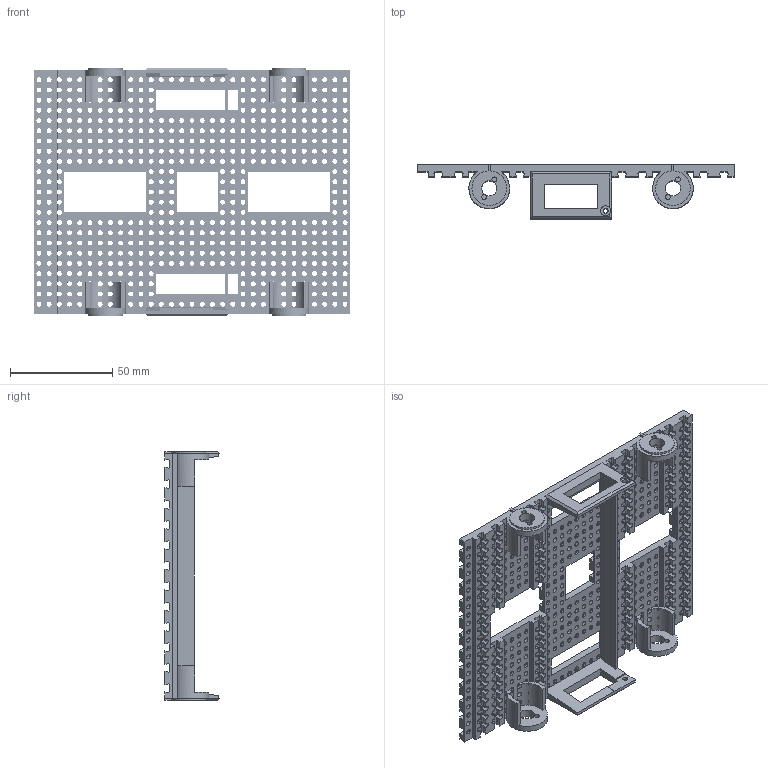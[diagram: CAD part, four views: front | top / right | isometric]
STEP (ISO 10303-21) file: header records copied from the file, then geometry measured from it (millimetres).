
FILE_DESCRIPTION(/* description */ (''),/* implementation_level */ '2;1');
FILE_NAME(/* name */ 'C:/Users/priba/Downloads/ChassisMaze.step',/* time_stamp */ '2022-04-03T23:52:10+02:00',/* author */ (''),/* organization */ (''),/* preprocessor_version */ 'ST-DEVELOPER v18.1',/* originating_system */ 'Autodesk Translation Framework v10.13.0.1454',/* authorisation */ '');
FILE_SCHEMA (('AUTOMOTIVE_DESIGN { 1 0 10303 214 3 1 1 }'));
Products named in the file (1): ChassisMaze
Bounding box: 155 x 26.5 x 122 mm (x, y, z)
Volume: 55359.6 mm3; surface area: 66913.9 mm2
Topology: 1 solids, 1 shells, 1549 faces, 5520 edges, 3676 vertices
Faces by surface type: plane 912, cylinder 637
Full cylindrical faces by diameter (mm): 2.4 x575, 5 x2, 7.4 x4
Entity records: 64203 total; most frequent: CARTESIAN_POINT 12006, DIRECTION 11475, ORIENTED_EDGE 11040, EDGE_CURVE 5520, AXIS2_PLACEMENT_3D 4489, VERTEX_POINT 3676, LINE 2497, VECTOR 2497
